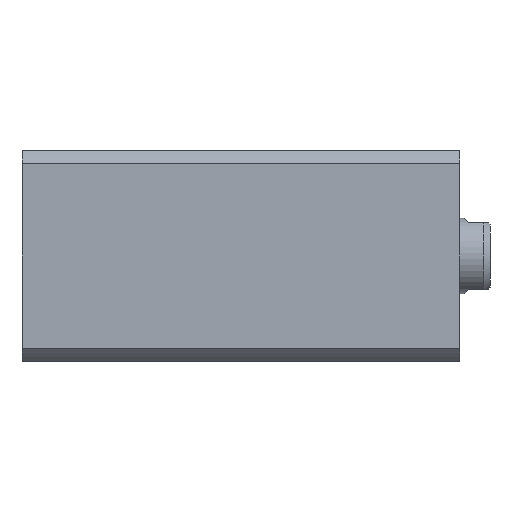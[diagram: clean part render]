
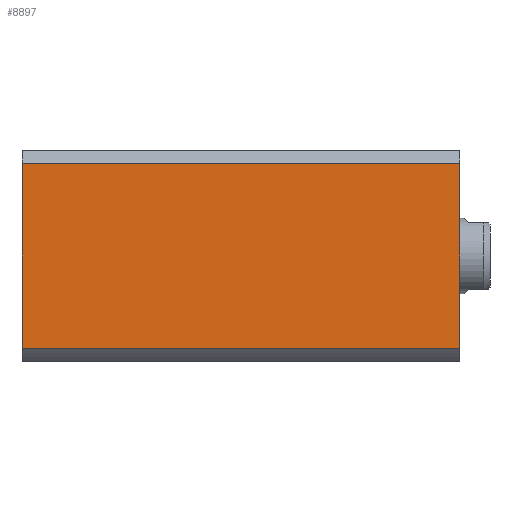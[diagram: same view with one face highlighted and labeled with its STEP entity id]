
A CAD part, left-side view. The second image highlights one B-rep face of the part: STEP entity #8897.
In plain terms, the highlighted planar face has unit normal (-1, 0, 0).
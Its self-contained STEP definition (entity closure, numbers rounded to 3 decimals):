
#602 = CARTESIAN_POINT ( 'NONE',  ( -35., 35., 145. ) ) ;
#676 = FACE_OUTER_BOUND ( 'NONE', #6848, .T. ) ;
#679 = CARTESIAN_POINT ( 'NONE',  ( -35., -30.615, 0. ) ) ;
#887 = LINE ( 'NONE', #1652, #4863 ) ;
#1605 = DIRECTION ( 'NONE',  ( 1., 0., 0. ) ) ;
#1652 = CARTESIAN_POINT ( 'NONE',  ( -35., -30.615, 300. ) ) ;
#1857 = ORIENTED_EDGE ( 'NONE', *, *, #6065, .F. ) ;
#2351 = ORIENTED_EDGE ( 'NONE', *, *, #5862, .F. ) ;
#2775 = CARTESIAN_POINT ( 'NONE',  ( -35., 30.615, 0. ) ) ;
#2991 = PLANE ( 'NONE',  #3389 ) ;
#2994 = VECTOR ( 'NONE', #7805, 1000. ) ;
#3345 = DIRECTION ( 'NONE',  ( 0., -1., 0. ) ) ;
#3389 = AXIS2_PLACEMENT_3D ( 'NONE', #602, #1605, #7093 ) ;
#3639 = VERTEX_POINT ( 'NONE', #2775 ) ;
#4201 = CARTESIAN_POINT ( 'NONE',  ( -35., 30.615, 300. ) ) ;
#4307 = VERTEX_POINT ( 'NONE', #4821 ) ;
#4357 = VECTOR ( 'NONE', #8896, 1000. ) ;
#4480 = LINE ( 'NONE', #9635, #6326 ) ;
#4693 = ORIENTED_EDGE ( 'NONE', *, *, #5932, .F. ) ;
#4821 = CARTESIAN_POINT ( 'NONE',  ( -35., -30.615, 145. ) ) ;
#4863 = VECTOR ( 'NONE', #7136, 1000. ) ;
#5104 = VERTEX_POINT ( 'NONE', #679 ) ;
#5451 = CARTESIAN_POINT ( 'NONE',  ( -35., 35., 145. ) ) ;
#5559 = ORIENTED_EDGE ( 'NONE', *, *, #6698, .T. ) ;
#5862 = EDGE_CURVE ( 'NONE', #6156, #4307, #7673, .T. ) ;
#5932 = EDGE_CURVE ( 'NONE', #4307, #5104, #887, .T. ) ;
#6065 = EDGE_CURVE ( 'NONE', #3639, #6156, #8537, .T. ) ;
#6156 = VERTEX_POINT ( 'NONE', #8926 ) ;
#6326 = VECTOR ( 'NONE', #3345, 1000. ) ;
#6698 = EDGE_CURVE ( 'NONE', #3639, #5104, #4480, .T. ) ;
#6848 = EDGE_LOOP ( 'NONE', ( #4693, #2351, #1857, #5559 ) ) ;
#7093 = DIRECTION ( 'NONE',  ( 0., 1., 0. ) ) ;
#7136 = DIRECTION ( 'NONE',  ( 0., 0., -1. ) ) ;
#7673 = LINE ( 'NONE', #5451, #2994 ) ;
#7805 = DIRECTION ( 'NONE',  ( 0., -1., 0. ) ) ;
#8537 = LINE ( 'NONE', #4201, #4357 ) ;
#8897 = ADVANCED_FACE ( 'NONE', ( #676 ), #2991, .F. ) ;
#8896 = DIRECTION ( 'NONE',  ( 0., 0., 1. ) ) ;
#8926 = CARTESIAN_POINT ( 'NONE',  ( -35., 30.615, 145. ) ) ;
#9635 = CARTESIAN_POINT ( 'NONE',  ( -35., 35., 0. ) ) ;
